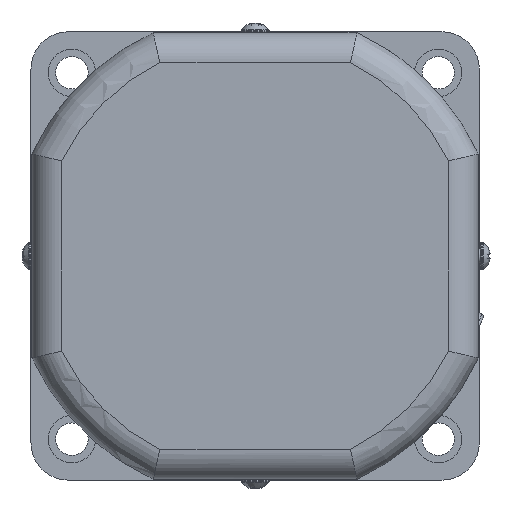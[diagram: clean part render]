
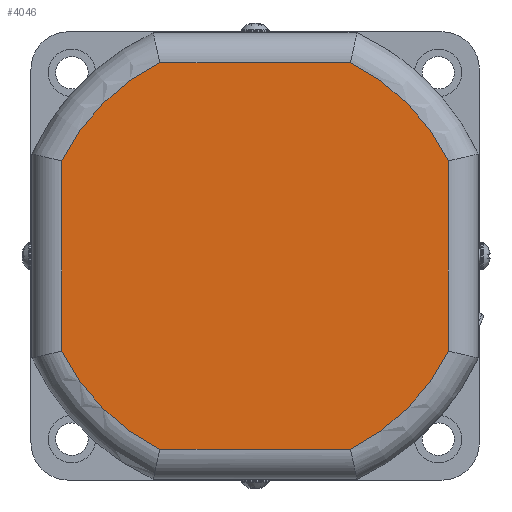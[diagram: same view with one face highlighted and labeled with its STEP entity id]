
A CAD part, left-side view. The second image highlights one B-rep face of the part: STEP entity #4046.
In plain terms, the highlighted planar face has unit normal (-1, 0, 0).
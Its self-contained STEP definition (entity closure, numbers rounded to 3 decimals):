
#3971=CARTESIAN_POINT('',(-23.,0.,0.));
#3972=DIRECTION('',(1.0,0.0,0.0));
#3973=DIRECTION('',(0.0,-1.0,0.0));
#3974=AXIS2_PLACEMENT_3D('',#3971,#3972,#3973);
#3975=PLANE('',#3974);
#3976=CARTESIAN_POINT('',(-23.,-19.108,-38.8));
#3977=VERTEX_POINT('',#3976);
#3978=CARTESIAN_POINT('',(-23.,19.108,-38.8));
#3979=VERTEX_POINT('',#3978);
#3980=CARTESIAN_POINT('',(-23.,-19.108,-38.8));
#3981=DIRECTION('',(0.0,1.0,0.0));
#3982=VECTOR('',#3981,38.216);
#3983=LINE('',#3980,#3982);
#3984=EDGE_CURVE('',#3977,#3979,#3983,.T.);
#3985=ORIENTED_EDGE('',*,*,#3984,.F.);
#3986=CARTESIAN_POINT('',(-23.,-38.8,-19.108));
#3987=VERTEX_POINT('',#3986);
#3988=CARTESIAN_POINT('',(-23.,0.,0.));
#3989=DIRECTION('',(1.0,0.,0.));
#3990=DIRECTION('',(0.,-0.707,-0.707));
#3991=AXIS2_PLACEMENT_3D('',#3988,#3989,#3990);
#3992=CIRCLE('',#3991,43.25);
#3993=EDGE_CURVE('',#3987,#3977,#3992,.T.);
#3994=ORIENTED_EDGE('',*,*,#3993,.F.);
#3995=CARTESIAN_POINT('',(-23.,-38.8,19.108));
#3996=VERTEX_POINT('',#3995);
#3997=CARTESIAN_POINT('',(-23.,-38.8,19.108));
#3998=DIRECTION('',(0.0,0.0,-1.0));
#3999=VECTOR('',#3998,38.216);
#4000=LINE('',#3997,#3999);
#4001=EDGE_CURVE('',#3996,#3987,#4000,.T.);
#4002=ORIENTED_EDGE('',*,*,#4001,.F.);
#4003=CARTESIAN_POINT('',(-23.,-19.108,38.8));
#4004=VERTEX_POINT('',#4003);
#4005=CARTESIAN_POINT('',(-23.,0.,0.));
#4006=DIRECTION('',(1.0,0.,0.));
#4007=DIRECTION('',(0.,-0.707,0.707));
#4008=AXIS2_PLACEMENT_3D('',#4005,#4006,#4007);
#4009=CIRCLE('',#4008,43.25);
#4010=EDGE_CURVE('',#4004,#3996,#4009,.T.);
#4011=ORIENTED_EDGE('',*,*,#4010,.F.);
#4012=CARTESIAN_POINT('',(-23.,19.108,38.8));
#4013=VERTEX_POINT('',#4012);
#4014=CARTESIAN_POINT('',(-23.,19.108,38.8));
#4015=DIRECTION('',(0.0,-1.0,0.0));
#4016=VECTOR('',#4015,38.216);
#4017=LINE('',#4014,#4016);
#4018=EDGE_CURVE('',#4013,#4004,#4017,.T.);
#4019=ORIENTED_EDGE('',*,*,#4018,.F.);
#4020=CARTESIAN_POINT('',(-23.,38.8,19.108));
#4021=VERTEX_POINT('',#4020);
#4022=CARTESIAN_POINT('',(-23.,0.,0.));
#4023=DIRECTION('',(1.0,0.,0.));
#4024=DIRECTION('',(0.,0.707,0.707));
#4025=AXIS2_PLACEMENT_3D('',#4022,#4023,#4024);
#4026=CIRCLE('',#4025,43.25);
#4027=EDGE_CURVE('',#4021,#4013,#4026,.T.);
#4028=ORIENTED_EDGE('',*,*,#4027,.F.);
#4029=CARTESIAN_POINT('',(-23.,38.8,-19.108));
#4030=VERTEX_POINT('',#4029);
#4031=CARTESIAN_POINT('',(-23.,38.8,-19.108));
#4032=DIRECTION('',(0.0,0.0,1.0));
#4033=VECTOR('',#4032,38.216);
#4034=LINE('',#4031,#4033);
#4035=EDGE_CURVE('',#4030,#4021,#4034,.T.);
#4036=ORIENTED_EDGE('',*,*,#4035,.F.);
#4037=CARTESIAN_POINT('',(-23.,0.,0.));
#4038=DIRECTION('',(1.,0.,0.));
#4039=DIRECTION('',(0.,0.707,-0.707));
#4040=AXIS2_PLACEMENT_3D('',#4037,#4038,#4039);
#4041=CIRCLE('',#4040,43.25);
#4042=EDGE_CURVE('',#3979,#4030,#4041,.T.);
#4043=ORIENTED_EDGE('',*,*,#4042,.F.);
#4044=EDGE_LOOP('',(#3985,#3994,#4002,#4011,#4019,#4028,#4036,#4043));
#4045=FACE_OUTER_BOUND('',#4044,.T.);
#4046=ADVANCED_FACE('',(#4045),#3975,.F.);
